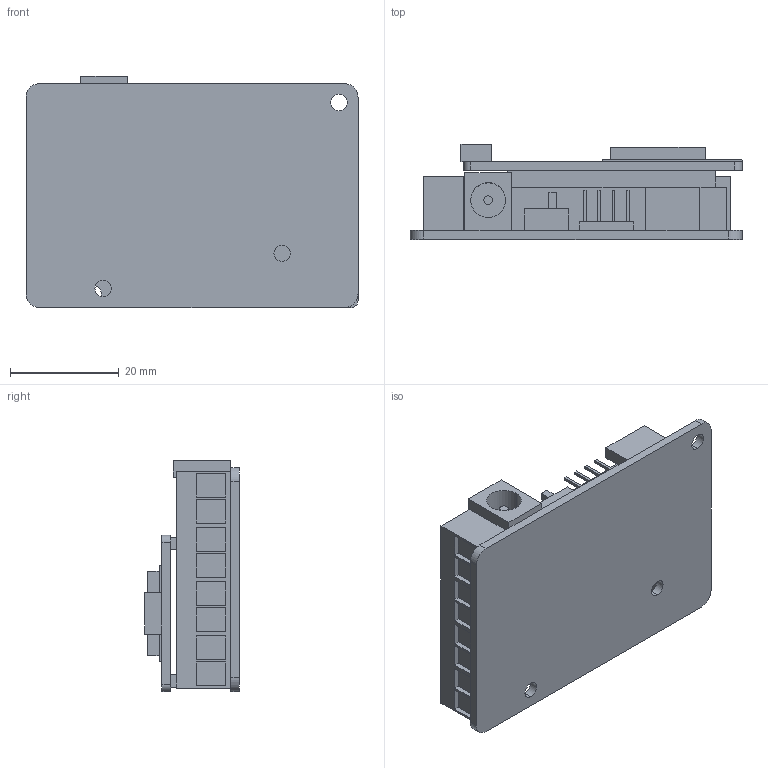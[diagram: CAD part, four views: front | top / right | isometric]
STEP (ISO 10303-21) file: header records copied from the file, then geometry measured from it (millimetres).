
FILE_DESCRIPTION (( 'STEP AP203' ), '1' );
FILE_NAME ('Alfredo NoU2 (ACP).STEP', '2020-05-02T05:26:31', ( '' ), ( '' ), 'SwSTEP 2.0', 'SolidWorks 2019', '' );
FILE_SCHEMA (( 'CONFIG_CONTROL_DESIGN' ));
Length unit declared in the file: millimetre
Products named in the file (1): Alfredo NoU2 (ACP)
Bounding box: 61.2 x 17.5 x 42.6 mm (x, y, z)
Volume: 14899 mm3; surface area: 13925.6 mm2
Topology: 2 solids, 2 shells, 278 faces, 666 edges, 442 vertices
Faces by surface type: plane 227, cylinder 51
Entity records: 8087 total; most frequent: CARTESIAN_POINT 1387, ORIENTED_EDGE 1332, DIRECTION 1326, EDGE_CURVE 666, VECTOR 564, LINE 564, VERTEX_POINT 442, AXIS2_PLACEMENT_3D 381
